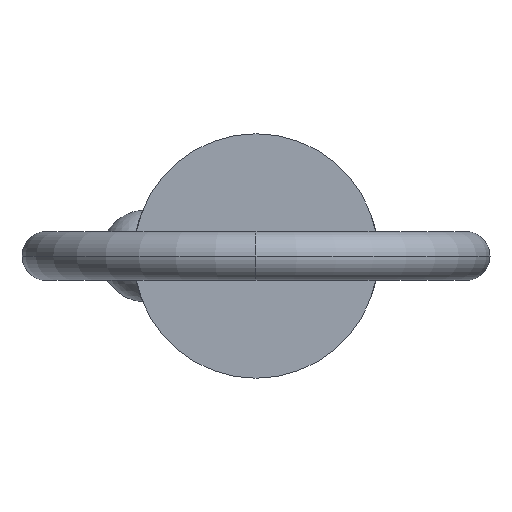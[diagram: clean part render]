
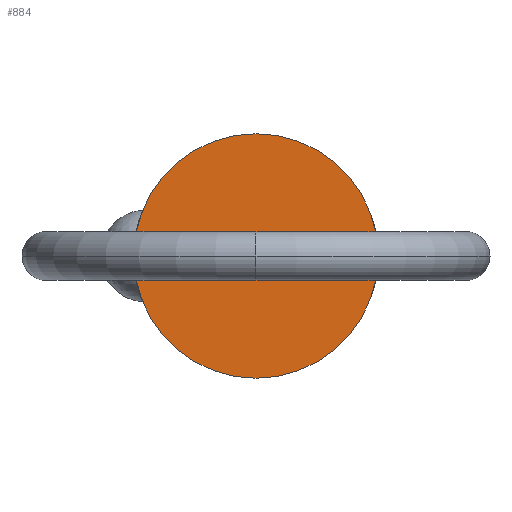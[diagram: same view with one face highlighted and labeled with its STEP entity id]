
A CAD part, left-side view. The second image highlights one B-rep face of the part: STEP entity #884.
In plain terms, the highlighted planar face has unit normal (-1, 0, 0).
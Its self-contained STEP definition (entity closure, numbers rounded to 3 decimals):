
#35 = CARTESIAN_POINT ( 'NONE',  ( 0., 0., 0. ) ) ;
#53 = CIRCLE ( 'NONE', #507, 11.115 ) ;
#65 = ORIENTED_EDGE ( 'NONE', *, *, #500, .F. ) ;
#100 = DIRECTION ( 'NONE',  ( 0., 0., -1. ) ) ;
#115 = DIRECTION ( 'NONE',  ( 1., 0., 0. ) ) ;
#122 = ORIENTED_EDGE ( 'NONE', *, *, #560, .F. ) ;
#272 = VERTEX_POINT ( 'NONE', #896 ) ;
#312 = DIRECTION ( 'NONE',  ( 1., 0., 0. ) ) ;
#370 = CARTESIAN_POINT ( 'NONE',  ( 0., 0., 0. ) ) ;
#387 = DIRECTION ( 'NONE',  ( 0., 0., -1. ) ) ;
#436 = EDGE_LOOP ( 'NONE', ( #122, #65 ) ) ;
#445 = VERTEX_POINT ( 'NONE', #819 ) ;
#459 = CARTESIAN_POINT ( 'NONE',  ( 0., 0., 0. ) ) ;
#500 = EDGE_CURVE ( 'NONE', #272, #445, #53, .T. ) ;
#507 = AXIS2_PLACEMENT_3D ( 'NONE', #459, #115, #387 ) ;
#527 = DIRECTION ( 'NONE',  ( 0., 0., 1. ) ) ;
#560 = EDGE_CURVE ( 'NONE', #445, #272, #855, .T. ) ;
#595 = FACE_OUTER_BOUND ( 'NONE', #436, .T. ) ;
#717 = DIRECTION ( 'NONE',  ( -1., 0., 0. ) ) ;
#723 = PLANE ( 'NONE',  #773 ) ;
#773 = AXIS2_PLACEMENT_3D ( 'NONE', #370, #717, #527 ) ;
#819 = CARTESIAN_POINT ( 'NONE',  ( 0., 0., -11.115 ) ) ;
#855 = CIRCLE ( 'NONE', #892, 11.115 ) ;
#884 = ADVANCED_FACE ( 'NONE', ( #595 ), #723, .T. ) ;
#892 = AXIS2_PLACEMENT_3D ( 'NONE', #35, #312, #100 ) ;
#896 = CARTESIAN_POINT ( 'NONE',  ( 0., 0., 11.115 ) ) ;
